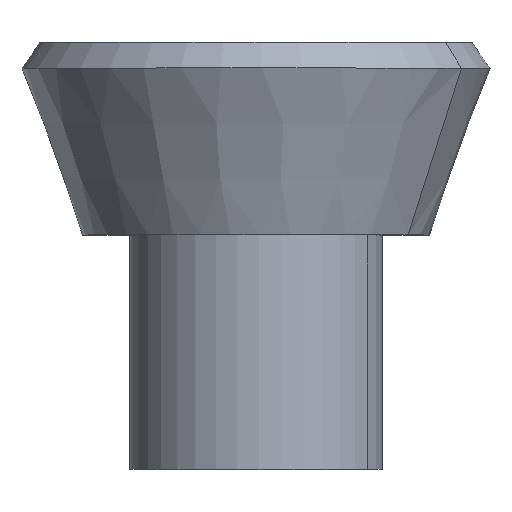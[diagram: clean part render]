
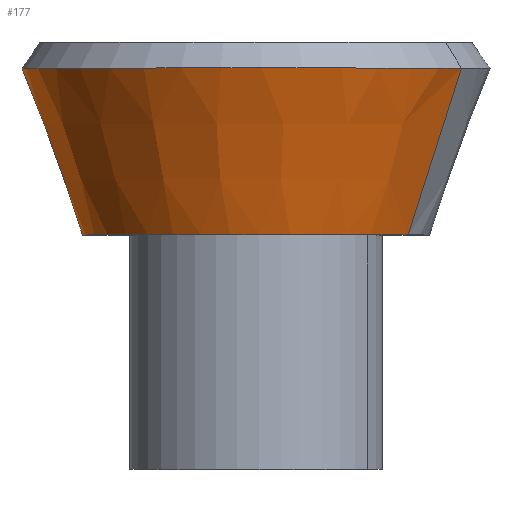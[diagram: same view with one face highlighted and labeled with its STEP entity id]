
A CAD part, top view. The second image highlights one B-rep face of the part: STEP entity #177.
In plain terms, the highlighted conical face has half-angle 20 degrees and reference radius 111 mm.
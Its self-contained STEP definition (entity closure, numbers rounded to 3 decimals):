
#114=CARTESIAN_POINT('Axis2P3D Location',(0.,0.,0.)) ;
#118=CARTESIAN_POINT('Vertex',(97.412,0.,53.216)) ;
#120=CARTESIAN_POINT('Vertex',(-97.412,0.,-53.216)) ;
#147=CARTESIAN_POINT('Axis2P3D Location',(0.,0.,0.)) ;
#152=CARTESIAN_POINT('Line Origine',(114.455,53.358,62.527)) ;
#156=CARTESIAN_POINT('Vertex',(131.498,106.717,71.838)) ;
#159=CARTESIAN_POINT('Axis2P3D Location',(0.,106.717,0.)) ;
#163=CARTESIAN_POINT('Vertex',(-131.498,106.717,-71.838)) ;
#166=CARTESIAN_POINT('Line Origine',(-114.455,53.358,-62.527)) ;
#115=DIRECTION('Axis2P3D Direction',(0.,-1.,0.)) ;
#148=DIRECTION('Axis2P3D Direction',(-0.,1.,-0.)) ;
#149=DIRECTION('Axis2P3D XDirection',(0.878,0.,0.479)) ;
#153=DIRECTION('Vector Direction',(0.3,0.94,0.164)) ;
#160=DIRECTION('Axis2P3D Direction',(0.,1.,-0.)) ;
#167=DIRECTION('Vector Direction',(-0.3,0.94,-0.164)) ;
#116=AXIS2_PLACEMENT_3D('Circle Axis2P3D',#114,#115,$) ;
#150=AXIS2_PLACEMENT_3D('Cone Axis2P3D',#147,#148,#149) ;
#161=AXIS2_PLACEMENT_3D('Circle Axis2P3D',#159,#160,$) ;
#172=ORIENTED_EDGE('',*,*,#122,.F.) ;
#173=ORIENTED_EDGE('',*,*,#158,.T.) ;
#174=ORIENTED_EDGE('',*,*,#165,.T.) ;
#175=ORIENTED_EDGE('',*,*,#170,.F.) ;
#154=VECTOR('Line Direction',#153,1.) ;
#168=VECTOR('Line Direction',#167,1.) ;
#177=ADVANCED_FACE('PartBody',(#176),#151,.T.) ;
#117=CIRCLE('generated circle',#116,111.) ;
#162=CIRCLE('generated circle',#161,149.842) ;
#151=CONICAL_SURFACE('Cone',#150,111.,0.349) ;
#122=EDGE_CURVE('',#119,#121,#117,.T.) ;
#158=EDGE_CURVE('',#119,#157,#155,.T.) ;
#165=EDGE_CURVE('',#157,#164,#162,.F.) ;
#170=EDGE_CURVE('',#121,#164,#169,.T.) ;
#171=EDGE_LOOP('',(#172,#173,#174,#175)) ;
#176=FACE_OUTER_BOUND('',#171,.T.) ;
#155=LINE('Line',#152,#154) ;
#169=LINE('Line',#166,#168) ;
#119=VERTEX_POINT('',#118) ;
#121=VERTEX_POINT('',#120) ;
#157=VERTEX_POINT('',#156) ;
#164=VERTEX_POINT('',#163) ;
